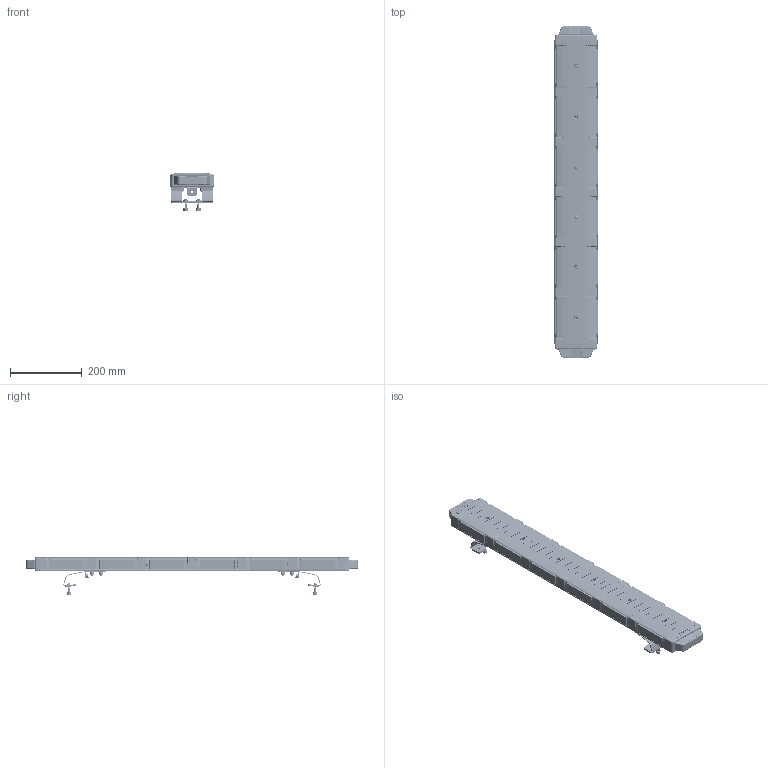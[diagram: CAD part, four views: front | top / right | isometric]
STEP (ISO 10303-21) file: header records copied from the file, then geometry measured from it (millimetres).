
FILE_DESCRIPTION((''),'2;1');
FILE_NAME('LURKER_36_ASM','2021-12-27T14:40:46',('dell'),(''),'CREO PARAMETRIC BY PTC INC, 2021284','CREO PARAMETRIC BY PTC INC, 2021284','');
FILE_SCHEMA(('CONFIG_CONTROL_DESIGN','SHAPE_APPEARANCE_LAYERS_GROUPS'));
Products named in the file (233): SHANG_GAI_1; XIA_XING_CAI-48_1; M3X5_PING_BAO_TOU_LUO_DING_1; L200_P1_1; PCB_SF-L200-V1_02_1; L200_S2_1; PCB_L200-10LED-V1_02_1_1; PCB_L200-10LED-V1_02_2_1; PCB_L200-10LED-V1_02_3_1; PCB_L200-10LED-V1_02_4_1; PCB_L200-10LED-V1_02_5_1; PCB_L200-10LED-V1_02_6_1; PCB_L200-10LED-V1_02_7_1; PCB_L200-10LED-V1_02_8_1; PCB_L200-10LED-V1_02_9_1; PCB_L200-10LED-V1_02_10_1; PCB_L200-10LED-V1_02_11_1; PCB_L200-10LED-V1_02_12_1; PCB_L200-10LED-V1_02_13_1; PCB_L200-10LED-V1_02_14_1; PCB_L200-10LED-V1_02_15_1; PCB_L200-10LED-V1_02_16_1; PCB_L200-10LED-V1_02_17_1; PCB_L200-10LED-V1_02_18_1; PCB_L200-10LED-V1_02_19_1; PCB_L200-10LED-V1_02_ASM_1_ASM; L200_P2_1; L200_S1_1; L200_M2_1; L200_M1_1; 0-L200-ASM_ASM_1_ASM; CE_GAI_1; CE_GAI_GU_DING_BAN_F1_1; GB-T818_H-2000_M3X8_1; GB-T818_H-2000_M5X12_1; 0-CE_ZU_JIAN-ASM_ASM_1_ASM; QIAN_HOU_TOU_JING_1; QIAN_HOU_GU_DING_ZUO_1; LENS-4_1; QIAN_HOU_DENG_BAN_PCB_1_1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
Assembly tree (278 placements, depth 6):
  LURKER_36_ASM
    0-48-ASM_1_ASM_1_ASM
      SHANG_GAI_1  x6
      XIA_XING_CAI-48_1
      0-CE_ZU_JIAN-ASM_ASM_1_ASM  x2
        0-L200-ASM_ASM_1_ASM
          M3X5_PING_BAO_TOU_LUO_DING_1  x2
          L200_P1_1
          PCB_SF-L200-V1_02_1
          L200_S2_1
          PCB_L200-10LED-V1_02_ASM_1_ASM
            PCB_L200-10LED-V1_02_1_1
            PCB_L200-10LED-V1_02_2_1
            PCB_L200-10LED-V1_02_3_1
            PCB_L200-10LED-V1_02_4_1
            PCB_L200-10LED-V1_02_5_1
            PCB_L200-10LED-V1_02_6_1
            PCB_L200-10LED-V1_02_7_1
            PCB_L200-10LED-V1_02_8_1
            PCB_L200-10LED-V1_02_9_1
            PCB_L200-10LED-V1_02_10_1
            PCB_L200-10LED-V1_02_11_1
            PCB_L200-10LED-V1_02_12_1
            PCB_L200-10LED-V1_02_13_1
            PCB_L200-10LED-V1_02_14_1
            PCB_L200-10LED-V1_02_15_1
            PCB_L200-10LED-V1_02_16_1
            PCB_L200-10LED-V1_02_17_1
            PCB_L200-10LED-V1_02_18_1
            PCB_L200-10LED-V1_02_19_1
          L200_P2_1
          L200_S1_1
          L200_M2_1
          L200_M1_1
        CE_GAI_1
        CE_GAI_GU_DING_BAN_F1_1
        GB-T818_H-2000_M3X8_1
        GB-T818_H-2000_M5X12_1
      GB-T818_H-2000_M5X12_1  x7
      0-QIAN_HOU_DENG_ZU-ASM_ASM_1_ASM  x12
        QIAN_HOU_TOU_JING_1
        QIAN_HOU_GU_DING_ZUO_1
        LENS-4_1
        QIAN_HOU_DENG_BAN_PCB_ASM_1_ASM
          QIAN_HOU_DENG_BAN_PCB_1_1
          QIAN_HOU_DENG_BAN_PCB_2_1
          QIAN_HOU_DENG_BAN_PCB_3_1
          QIAN_HOU_DENG_BAN_PCB_4_1
          QIAN_HOU_DENG_BAN_PCB_5_1
          QIAN_HOU_DENG_BAN_PCB_6_1
          QIAN_HOU_DENG_BAN_PCB_7_1
          QIAN_HOU_DENG_BAN_PCB_8_1
          QIAN_HOU_DENG_BAN_PCB_9_1
        XI_JIAO_PIAN_ASM_1_ASM
          XI_JIAO_PIAN_1_1
          XI_JIAO_PIAN_2_1
        GB859-87_M4_1
      0-JIAO_JIA-ASM_ASM_1_ASM  x2
        JIAO_JIA_ASM_1_ASM
          JIAO_JIA_1_1
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Bounding box: 120.19 x 925.4 x 106.49 mm (x, y, z)
Volume: 1649711.5 mm3; surface area: 1628663.3 mm2
Topology: 477 solids, 479 shells, 28065 faces, 72946 edges, 45636 vertices
Faces by surface type: plane 13614, bspline 5710, cylinder 5553, cone 1172, extrusion 840, torus 662, sphere 310, revolution 204
Entity records: 327236 total; most frequent: CARTESIAN_POINT 118824, ORIENTED_EDGE 35374, DIRECTION 29238, EDGE_CURVE 17696, PRESENTATION_STYLE_ASSIGNMENT 14533, STYLED_ITEM 14477, CURVE_STYLE 14432, VERTEX_POINT 11374
